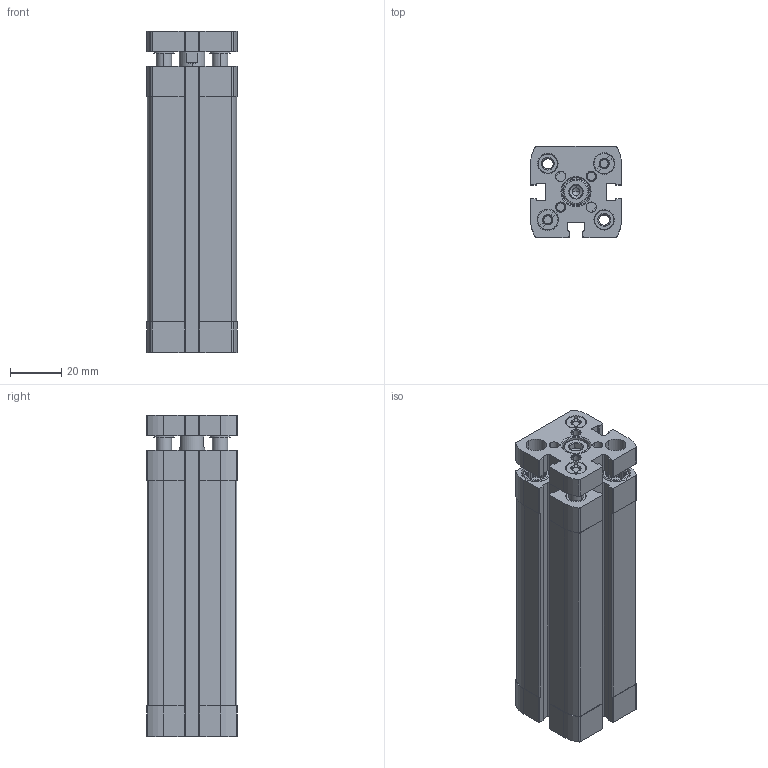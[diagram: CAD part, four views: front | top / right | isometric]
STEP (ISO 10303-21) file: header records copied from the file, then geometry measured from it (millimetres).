
FILE_DESCRIPTION (( 'STEP AP203' ), '1' );
FILE_NAME ('CCNG20-75.STEP', '2017-04-13T18:16:31', ( '' ), ( '' ), 'SwSTEP 2.0', 'SolidWorks 2016', '' );
FILE_SCHEMA (( 'CONFIG_CONTROL_DESIGN' ));
Length unit declared in the file: millimetre
Products named in the file (3): CCNG-20-75--(Z); CCNG-20-75---(KS); CCNG20-75
Assembly tree (2 placements, depth 2):
  CCNG20-75
    CCNG-20-75--(Z)
    CCNG-20-75---(KS)
Bounding box: 35.5 x 35.5 x 125.5 mm (x, y, z)
Volume: 107188.9 mm3; surface area: 50865 mm2
Topology: 2 solids, 6 shells, 598 faces, 1579 edges, 1029 vertices
Faces by surface type: plane 301, cylinder 214, cone 77, bspline 6
Entity records: 19210 total; most frequent: CARTESIAN_POINT 3744, DIRECTION 3271, ORIENTED_EDGE 3154, EDGE_CURVE 1577, AXIS2_PLACEMENT_3D 1230, VERTEX_POINT 1029, LINE 811, VECTOR 811
